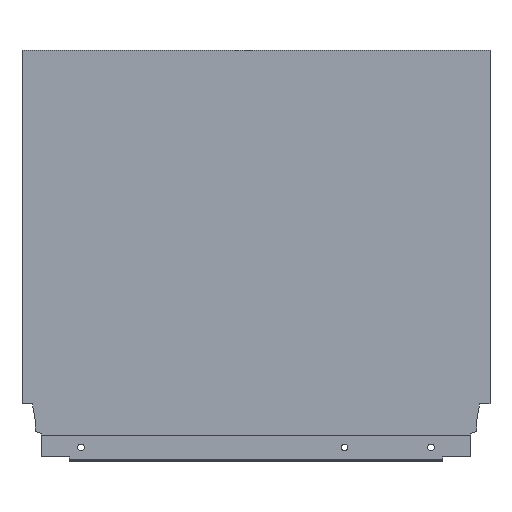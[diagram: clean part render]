
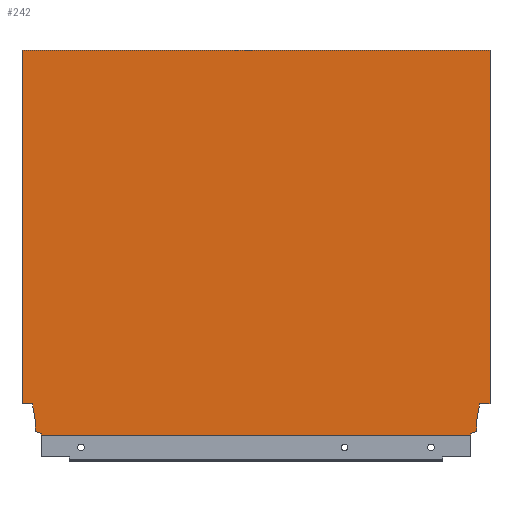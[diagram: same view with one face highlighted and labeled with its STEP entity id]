
A CAD part, top view. The second image highlights one B-rep face of the part: STEP entity #242.
In plain terms, the highlighted planar face has unit normal (0, 0, 1).
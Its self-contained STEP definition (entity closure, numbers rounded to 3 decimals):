
#10 = AXIS2_PLACEMENT_3D ( 'NONE', #849, #899, #901 ) ;
#20 = EDGE_CURVE ( 'NONE', #637, #753, #1211, .T. ) ;
#46 = EDGE_CURVE ( 'NONE', #642, #635, #1172, .T. ) ;
#52 = EDGE_CURVE ( 'NONE', #542, #637, #1145, .T. ) ;
#62 = EDGE_CURVE ( 'NONE', #642, #713, #1138, .T. ) ;
#63 = EDGE_CURVE ( 'NONE', #648, #660, #1136, .T. ) ;
#89 = EDGE_CURVE ( 'NONE', #569, #635, #1107, .T. ) ;
#114 = EDGE_CURVE ( 'NONE', #543, #454, #1094, .T. ) ;
#117 = EDGE_CURVE ( 'NONE', #454, #711, #1076, .T. ) ;
#137 = EDGE_CURVE ( 'NONE', #648, #558, #1064, .T. ) ;
#145 = EDGE_CURVE ( 'NONE', #558, #643, #1050, .T. ) ;
#148 = EDGE_CURVE ( 'NONE', #643, #543, #1044, .T. ) ;
#169 = EDGE_CURVE ( 'NONE', #711, #569, #1018, .T. ) ;
#171 = EDGE_CURVE ( 'NONE', #753, #660, #1161, .T. ) ;
#198 = EDGE_CURVE ( 'NONE', #713, #542, #976, .T. ) ;
#242 = ADVANCED_FACE ( 'NONE', ( #926 ), #336, .T. ) ;
#254 = DIRECTION ( 'NONE',  ( 0., 1., 0. ) ) ;
#284 = CARTESIAN_POINT ( 'NONE',  ( -308.1, 10.765, 8. ) ) ;
#318 = CARTESIAN_POINT ( 'NONE',  ( -322., 21.2, 8. ) ) ;
#336 = PLANE ( 'NONE',  #10 ) ;
#347 = CARTESIAN_POINT ( 'NONE',  ( -308.1, 2.64, 8. ) ) ;
#349 = DIRECTION ( 'NONE',  ( -0.94, 0.342, 0. ) ) ;
#369 = CARTESIAN_POINT ( 'NONE',  ( -317., 0., 8. ) ) ;
#379 = DIRECTION ( 'NONE',  ( 1., 0., 0. ) ) ;
#449 = CARTESIAN_POINT ( 'NONE',  ( -309.94, 21.2, 8. ) ) ;
#454 = VERTEX_POINT ( 'NONE', #892 ) ;
#476 = DIRECTION ( 'NONE',  ( -0.174, 0.985, 0. ) ) ;
#542 = VERTEX_POINT ( 'NONE', #868 ) ;
#543 = VERTEX_POINT ( 'NONE', #862 ) ;
#558 = VERTEX_POINT ( 'NONE', #853 ) ;
#569 = VERTEX_POINT ( 'NONE', #817 ) ;
#628 = CARTESIAN_POINT ( 'NONE',  ( 0., 0., 8. ) ) ;
#629 = DIRECTION ( 'NONE',  ( 0., -1., 0. ) ) ;
#634 = CARTESIAN_POINT ( 'NONE',  ( 0., 21.2, 8. ) ) ;
#635 = VERTEX_POINT ( 'NONE', #782 ) ;
#637 = VERTEX_POINT ( 'NONE', #781 ) ;
#638 = DIRECTION ( 'NONE',  ( -1., 0., 0. ) ) ;
#642 = VERTEX_POINT ( 'NONE', #785 ) ;
#643 = VERTEX_POINT ( 'NONE', #776 ) ;
#646 = DIRECTION ( 'NONE',  ( 1., 0., 0. ) ) ;
#647 = CARTESIAN_POINT ( 'NONE',  ( -317., 260.7, 8. ) ) ;
#648 = VERTEX_POINT ( 'NONE', #772 ) ;
#651 = CARTESIAN_POINT ( 'NONE',  ( -8.9, 2.64, 8. ) ) ;
#652 = DIRECTION ( 'NONE',  ( -0.94, -0.342, 0. ) ) ;
#660 = VERTEX_POINT ( 'NONE', #771 ) ;
#664 = CARTESIAN_POINT ( 'NONE',  ( -7.06, 21.2, 8. ) ) ;
#666 = DIRECTION ( 'NONE',  ( -0.174, -0.985, 0. ) ) ;
#668 = CARTESIAN_POINT ( 'NONE',  ( -8.9, 10.765, 8. ) ) ;
#669 = DIRECTION ( 'NONE',  ( 0., -1., 0. ) ) ;
#703 = DIRECTION ( 'NONE',  ( 0., -1., 0. ) ) ;
#710 = CARTESIAN_POINT ( 'NONE',  ( -317., 0., 8. ) ) ;
#711 = VERTEX_POINT ( 'NONE', #790 ) ;
#712 = DIRECTION ( 'NONE',  ( 0., 1., 0. ) ) ;
#713 = VERTEX_POINT ( 'NONE', #789 ) ;
#714 = CARTESIAN_POINT ( 'NONE',  ( -303.996, 1.146, 8. ) ) ;
#719 = DIRECTION ( 'NONE',  ( 0., -1., 0. ) ) ;
#744 = CARTESIAN_POINT ( 'NONE',  ( -13.004, 1.146, 8. ) ) ;
#753 = VERTEX_POINT ( 'NONE', #797 ) ;
#771 = CARTESIAN_POINT ( 'NONE',  ( -317., 21.2, 8. ) ) ;
#772 = CARTESIAN_POINT ( 'NONE',  ( -317., 260.7, 8. ) ) ;
#776 = CARTESIAN_POINT ( 'NONE',  ( 0., 21.2, 8. ) ) ;
#781 = CARTESIAN_POINT ( 'NONE',  ( -308.1, 10.765, 8. ) ) ;
#782 = CARTESIAN_POINT ( 'NONE',  ( -13.004, 0., 8. ) ) ;
#785 = CARTESIAN_POINT ( 'NONE',  ( -303.996, 0., 8. ) ) ;
#789 = CARTESIAN_POINT ( 'NONE',  ( -303.996, 1.146, 8. ) ) ;
#790 = CARTESIAN_POINT ( 'NONE',  ( -8.9, 2.64, 8. ) ) ;
#797 = CARTESIAN_POINT ( 'NONE',  ( -309.94, 21.2, 8. ) ) ;
#817 = CARTESIAN_POINT ( 'NONE',  ( -13.004, 1.146, 8. ) ) ;
#849 = CARTESIAN_POINT ( 'NONE',  ( -317., 0., 8. ) ) ;
#853 = CARTESIAN_POINT ( 'NONE',  ( 0., 260.7, 8. ) ) ;
#862 = CARTESIAN_POINT ( 'NONE',  ( -7.06, 21.2, 8. ) ) ;
#868 = CARTESIAN_POINT ( 'NONE',  ( -308.1, 2.64, 8. ) ) ;
#892 = CARTESIAN_POINT ( 'NONE',  ( -8.9, 10.765, 8. ) ) ;
#896 = DIRECTION ( 'NONE',  ( -1., 0., 0. ) ) ;
#899 = DIRECTION ( 'NONE',  ( 0., 0., 1. ) ) ;
#901 = DIRECTION ( 'NONE',  ( 1., 0., 0. ) ) ;
#926 = FACE_OUTER_BOUND ( 'NONE', #1468, .T. ) ;
#975 = VECTOR ( 'NONE', #349, 1000. ) ;
#976 = LINE ( 'NONE', #347, #975 ) ;
#1018 = LINE ( 'NONE', #651, #1153 ) ;
#1043 = VECTOR ( 'NONE', #638, 1000. ) ;
#1044 = LINE ( 'NONE', #634, #1043 ) ;
#1049 = VECTOR ( 'NONE', #629, 1000. ) ;
#1050 = LINE ( 'NONE', #628, #1049 ) ;
#1063 = VECTOR ( 'NONE', #646, 1000. ) ;
#1064 = LINE ( 'NONE', #647, #1063 ) ;
#1075 = VECTOR ( 'NONE', #669, 1000. ) ;
#1076 = LINE ( 'NONE', #668, #1075 ) ;
#1094 = LINE ( 'NONE', #664, #1104 ) ;
#1104 = VECTOR ( 'NONE', #666, 1000. ) ;
#1105 = VECTOR ( 'NONE', #703, 1000. ) ;
#1107 = LINE ( 'NONE', #744, #1105 ) ;
#1135 = VECTOR ( 'NONE', #719, 1000. ) ;
#1136 = LINE ( 'NONE', #710, #1135 ) ;
#1137 = VECTOR ( 'NONE', #712, 1000. ) ;
#1138 = LINE ( 'NONE', #714, #1137 ) ;
#1144 = VECTOR ( 'NONE', #254, 1000. ) ;
#1145 = LINE ( 'NONE', #284, #1144 ) ;
#1153 = VECTOR ( 'NONE', #652, 1000. ) ;
#1160 = VECTOR ( 'NONE', #896, 1000. ) ;
#1161 = LINE ( 'NONE', #318, #1160 ) ;
#1171 = VECTOR ( 'NONE', #379, 1000. ) ;
#1172 = LINE ( 'NONE', #369, #1171 ) ;
#1211 = LINE ( 'NONE', #449, #1214 ) ;
#1214 = VECTOR ( 'NONE', #476, 1000. ) ;
#1247 = ORIENTED_EDGE ( 'NONE', *, *, #52, .F. ) ;
#1248 = ORIENTED_EDGE ( 'NONE', *, *, #198, .F. ) ;
#1249 = ORIENTED_EDGE ( 'NONE', *, *, #62, .F. ) ;
#1250 = ORIENTED_EDGE ( 'NONE', *, *, #46, .T. ) ;
#1251 = ORIENTED_EDGE ( 'NONE', *, *, #89, .F. ) ;
#1252 = ORIENTED_EDGE ( 'NONE', *, *, #169, .F. ) ;
#1253 = ORIENTED_EDGE ( 'NONE', *, *, #117, .F. ) ;
#1254 = ORIENTED_EDGE ( 'NONE', *, *, #114, .F. ) ;
#1255 = ORIENTED_EDGE ( 'NONE', *, *, #148, .F. ) ;
#1256 = ORIENTED_EDGE ( 'NONE', *, *, #145, .F. ) ;
#1266 = ORIENTED_EDGE ( 'NONE', *, *, #137, .F. ) ;
#1377 = ORIENTED_EDGE ( 'NONE', *, *, #63, .T. ) ;
#1433 = ORIENTED_EDGE ( 'NONE', *, *, #171, .F. ) ;
#1434 = ORIENTED_EDGE ( 'NONE', *, *, #20, .F. ) ;
#1468 = EDGE_LOOP ( 'NONE', ( #1377, #1433, #1434, #1247, #1248, #1249, #1250, #1251, #1252, #1253, #1254, #1255, #1256, #1266 ) ) ;
